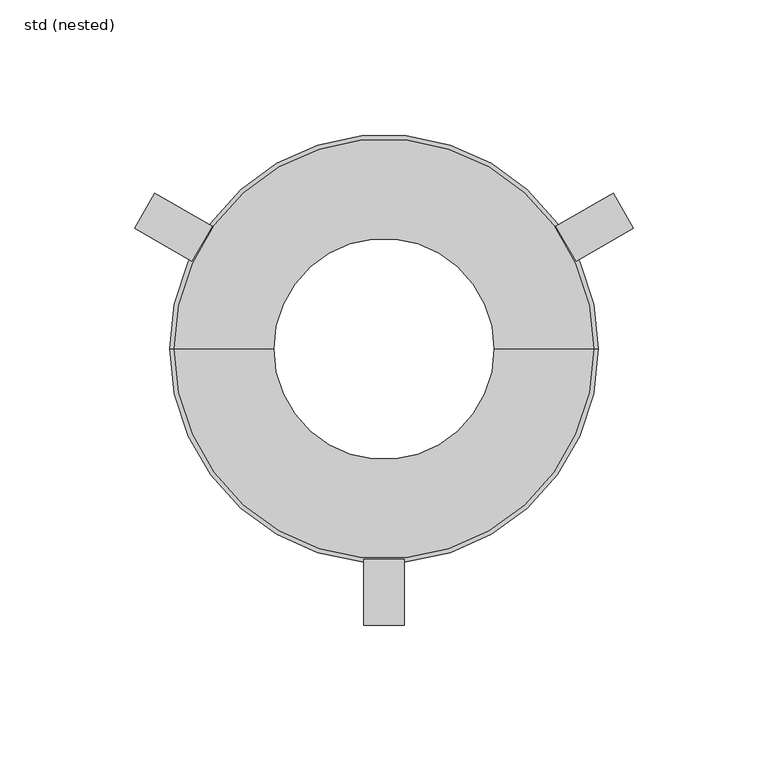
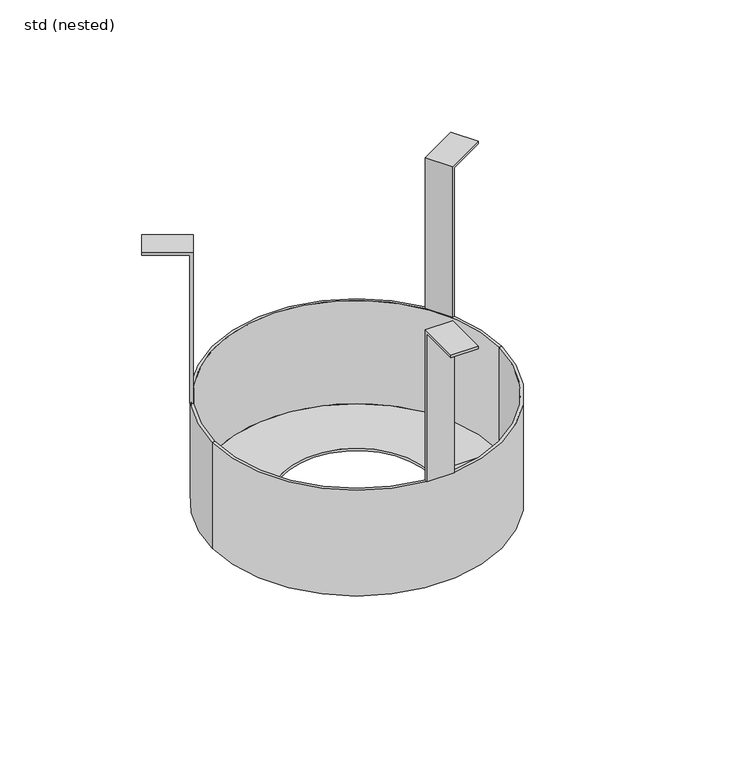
"""IFC4 building model written with IfcOpenShell, lengths in millimetres: damper geometry, ZZZ_do_not_use_PIA_GEN_UN_fit in installation set_ACO : std (nested)."""

from ifc_helpers import new_model, si_unit, frame, origin, place, context, project, spatial, polyline, circle_curve, outline, extrude, source, transform, mapped, element, save
from ifc_brep_helpers import plane_surface, cylinder_surface, revolved_surface, advanced_brep


def std_nested_43d58070(model_context):
    return source(origin(), model_context, "Body", "SolidModel", [
        extrude(outline(polyline([(0.0, -1.5), (0.0, 0.0), (24.5, 0.0), (24.5, -87.5), (23.0, -87.5), (23.0, -1.5), (0.0, -1.5)])), frame((92.5176039, 44.7548095, 0.0), z_axis=(-0.4999999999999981, 0.8660254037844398, 0.0), x_axis=(-0.8660254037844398, -0.4999999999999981, 0.0)), (0.0, 0.0, 1.0), 15.0),
        extrude(outline(polyline([(-102.5, -1.5), (-102.5, 0.0), (-78.0, 0.0), (-78.0, -87.5), (-79.5, -87.5), (-79.5, -1.5), (-102.5, -1.5)])), frame((-7.5, 0.0, 0.0), z_axis=(1.0, 0.0, 0.0), x_axis=(0.0, 1.0, 0.0)), (0.0, 0.0, 1.0), 15.0),
        extrude(outline(polyline([(0.0, -1.5), (0.0, 0.0), (23.0, 0.0), (23.0, 86.0), (24.5, 86.0), (24.5, -1.5), (0.0, -1.5)])), frame((-92.5176039, 44.7548095, -1.5), z_axis=(0.4999999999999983, 0.8660254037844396, 0.0), x_axis=(0.8660254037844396, -0.4999999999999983, 0.0)), (0.0, 0.0, 1.0), 15.0),
        advanced_brep(
        [(78.0, 0.0, -147.5), (-78.0, 0.0, -147.5), (-41.0, 0.0, -147.5), (41.0, 0.0, -147.5), (78.0, 0.0, -87.5), (-78.0, 0.0, -87.5), (79.5, 0.0, -87.5), (-79.5, 0.0, -87.5), (79.5, 0.0, -149.0), (-79.5, 0.0, -149.0), (41.0, 0.0, -149.0), (-41.0, 0.0, -149.0)],
        [
            (0, 1, circle_curve(frame((0.0, 0.0, -147.5), z_axis=(0.0, 0.0, 1.0), x_axis=(-1.0, 0.0, 0.0)), 78.0)),
            (1, 2),
            (2, 3, circle_curve(frame((0.0, 0.0, -147.5), z_axis=(0.0, 0.0, -1.0), x_axis=(-1.0, 0.0, 0.0)), 41.0)),
            (3, 0),
            (1, 0, circle_curve(frame((0.0, 0.0, -147.5), z_axis=(0.0, 0.0, 1.0), x_axis=(-1.0, 0.0, 0.0)), 78.0)),
            (3, 2, circle_curve(frame((0.0, 0.0, -147.5), z_axis=(0.0, 0.0, -1.0), x_axis=(-1.0, 0.0, 0.0)), 41.0)),
            (4, 5, circle_curve(frame((0.0, 0.0, -87.5), z_axis=(0.0, 0.0, 1.0), x_axis=(-1.0, 0.0, 0.0)), 78.0)),
            (5, 1),
            (0, 4),
            (5, 4, circle_curve(frame((0.0, 0.0, -87.5), z_axis=(0.0, 0.0, 1.0), x_axis=(-1.0, 0.0, 0.0)), 78.0)),
            (6, 7, circle_curve(frame((0.0, 0.0, -87.5), z_axis=(0.0, 0.0, 1.0), x_axis=(-1.0, 0.0, 0.0)), 79.5)),
            (7, 5),
            (4, 6),
            (7, 6, circle_curve(frame((0.0, 0.0, -87.5), z_axis=(0.0, 0.0, 1.0), x_axis=(-1.0, 0.0, 0.0)), 79.5)),
            (8, 9, circle_curve(frame((0.0, 0.0, -149.0), z_axis=(0.0, 0.0, 1.0), x_axis=(-1.0, 0.0, 0.0)), 79.5)),
            (9, 7),
            (6, 8),
            (9, 8, circle_curve(frame((0.0, 0.0, -149.0), z_axis=(0.0, 0.0, 1.0), x_axis=(-1.0, 0.0, 0.0)), 79.5)),
            (10, 11, circle_curve(frame((0.0, 0.0, -149.0), z_axis=(0.0, 0.0, 1.0), x_axis=(-1.0, 0.0, 0.0)), 41.0)),
            (11, 9),
            (8, 10),
            (11, 10, circle_curve(frame((0.0, 0.0, -149.0), z_axis=(0.0, 0.0, 1.0), x_axis=(-1.0, 0.0, 0.0)), 41.0)),
            (2, 11),
            (10, 3),
        ],
        [
            plane_surface(frame((0.0, 0.0, -147.5), z_axis=(0.0, 0.0, 1.0), x_axis=(-1.0, 0.0, 0.0))),
            revolved_surface(polyline([(-78.0, 0.0, -147.5), (-78.0, 0.0, -87.5)]), (0.0, 0.0, -50.1604838), (0.0, 0.0, -1.0)),
            plane_surface(frame((0.0, 0.0, -87.5), z_axis=(0.0, 0.0, 1.0), x_axis=(-1.0, 0.0, 0.0))),
            cylinder_surface(frame((0.0, 0.0, -50.1604838), z_axis=(0.0, 0.0, -1.0), x_axis=(-1.0, 0.0, 0.0)), 79.5),
            plane_surface(frame((0.0, 0.0, -149.0), z_axis=(0.0, 0.0, -1.0), x_axis=(-1.0, 0.0, 0.0))),
            revolved_surface(polyline([(-41.0, 0.0, -149.0), (-41.0, 0.0, -147.5)]), (0.0, 0.0, -50.1604838), (0.0, 0.0, -1.0)),
        ],
        [
            (0, [[1, 2, 3, 4]]),
            (0, [[5, -4, 6, -2]]),
            (1, [[7, 8, -1, 9]]),
            (1, [[10, -9, -5, -8]]),
            (2, [[11, 12, -7, 13]]),
            (2, [[14, -13, -10, -12]]),
            (3, [[15, 16, -11, 17]]),
            (3, [[18, -17, -14, -16]]),
            (4, [[19, 20, -15, 21]]),
            (4, [[22, -21, -18, -20]]),
            (5, [[-3, 23, -19, 24]]),
            (5, [[-6, -24, -22, -23]]),
        ],
    ),
    ])


if __name__ == "__main__":
    model = new_model("IFC4")
    model_context = context("Model", 3, world=origin())
    ifc_project = project(units=[si_unit("LENGTHUNIT", "METRE", prefix="MILLI")], contexts=[model_context])
    site = spatial("IfcSite", under=ifc_project)
    building = spatial("IfcBuilding", under=site)
    placement = place(None, origin())
    std_nested_shape = std_nested_43d58070(model_context)
    element("IfcDamper", 1, ObjectType="ZZZ_do_not_use_PIA_GEN_UN_fit in installation set_ACO : std (nested)", at=placement, inside=building, context=model_context, shape_type="MappedRepresentation", body=[
        mapped(std_nested_shape, transform((0.0, 0.0, 0.0), x_axis=(1.0, 0.0, 0.0), y_axis=(0.0, 1.0, 0.0), z_axis=(0.0, 0.0, 1.0))),
    ])
    save(model, "model.ifc")
